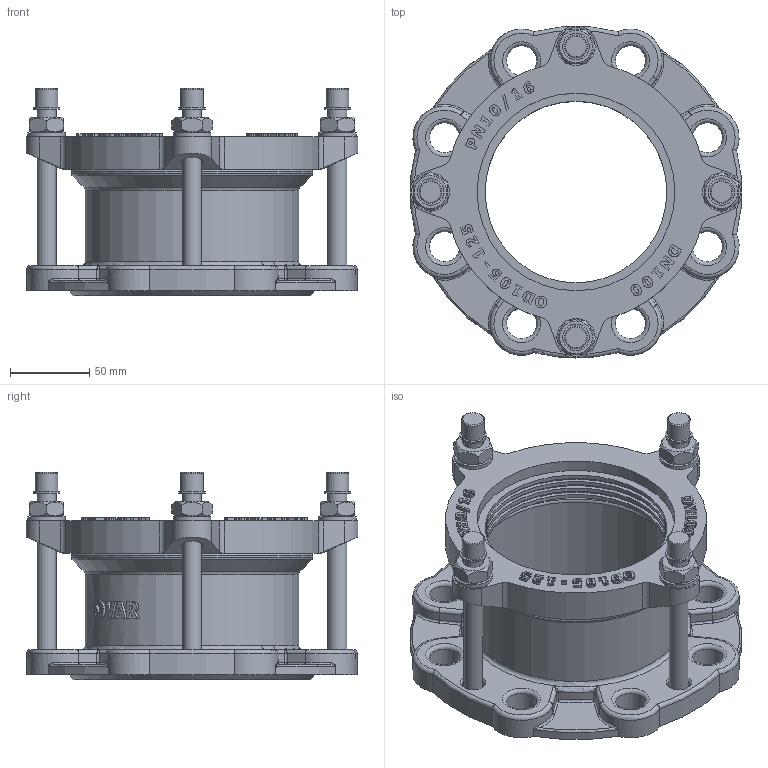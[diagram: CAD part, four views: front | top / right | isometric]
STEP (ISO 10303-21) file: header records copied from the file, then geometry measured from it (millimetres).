
FILE_DESCRIPTION(('STEP AP203'), '1');
FILE_NAME('Ôëàíöåâûé àäàïòåð', '', ('UNSPECIFIED'), ('UNSPECIFIED'), 'C3D Converter', 'C3D Toolkit', '');
FILE_SCHEMA(('CONFIG_CONTROL_DESIGN'));
Length unit declared in the file: millimetre
Assembly tree (19 placements, depth 2):
  (unnamed)
    (unnamed)
    (unnamed)  x4
    (unnamed)  x4
    (unnamed)  x4
    (unnamed)  x4
    (unnamed)
    (unnamed)
Bounding box: 210 x 210 x 131.2 mm (x, y, z)
Volume: 763581.5 mm3; surface area: 249835.9 mm2
Topology: 19 solids, 19 shells, 1000 faces, 2506 edges, 1554 vertices
Faces by surface type: plane 337, extrusion 302, cylinder 202, torus 71, cone 32, bspline 32, sphere 24
Full cylindrical faces by diameter (mm): 12 x12, 12.253 x1, 13 x4, 14 x8, 14.4 x4, 16.8 x4, 19 x8, 24 x4, 115 x5, 120 x3, 125 x2, 130 x1, 135 x2, 152.5 x1, 155 x2
Entity records: 38348 total; most frequent: CARTESIAN_POINT 14118, ORIENTED_EDGE 4282, DIRECTION 3303, EDGE_CURVE 2141, VERTEX_POINT 1398, VECTOR 1249, EDGE_LOOP 1051, AXIS2_PLACEMENT_3D 1027
